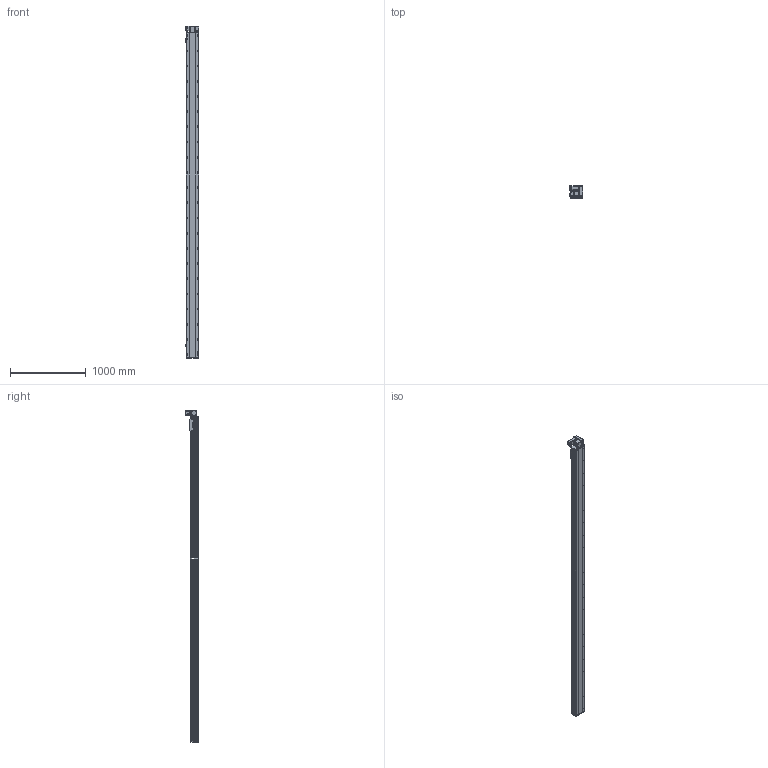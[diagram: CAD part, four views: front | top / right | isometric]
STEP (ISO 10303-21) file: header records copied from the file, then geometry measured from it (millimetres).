
FILE_DESCRIPTION (( 'STEP AP214' ), '1' );
FILE_NAME ('RTB17S-XX-4000-RW-M40-C4.STEP', '2025-12-11T09:25:11', ( '' ), ( '' ), 'SwSTEP 2.0', 'SolidWorks 2018', '' );
FILE_SCHEMA (( 'AUTOMOTIVE_DESIGN' ));
Length unit declared in the file: millimetre
Products named in the file (14): RMP17S-L-014-T20--々湍釱^RTB17S-RW-々湍釱蚾饜-400W_RTB17S-XX-XX-RW-M40-C4; RTB14-L-017P^RTB17S-RW-々湍釱蚾饜-400W_RTB17S-XX-XX-RW-M40-C4; RTB14-L-018P^RTB17S-RW-々湍釱蚾饜-400W_RTB17S-XX-XX-RW-M40-C4; RTB17S-L-007奻裔^RTB17S-XX-XX-RW-M40-C4; RTB17S-L-001耜醱啣^RTB17S-XX-XX-RW-M40-C4; RTB17S-XX-4000-RW-M40-C4; RTB14-L-008-M20--萇儂啣^RTB17S-RW-々湍釱蚾饜-400W_RTB17S-XX-XX-RW-M40-C4; RTB17-R-011菁釱^RTB17S-XX-XX-RW-M40-C4; RTB14-L-005P--轴承塑胶压盖^RTB17S-RW-皮带座装配-400W_RTB17S-XX-XX-RW-M40-C4; RTH13-BL-012覜茼え俋离^RTB17S-XX-XX-RW-M40-C4; RTB17S-RW-々湍釱蚾饜-400W^RTB17S-XX-XX-RW-M40-C4; OMRON EE-SX672 传感器^RTB17S-XX-XX-RW-M40-C4; RTB17S-L-004佪裝蹟譫蟀諉釱^RTB17S-XX-XX-RW-M40-C4; 400W侜督萇儂^RTB17S-XX-XX-RW-M40-C4
Assembly tree (16 placements, depth 3):
  RTB17S-XX-4000-RW-M40-C4
    RTB17-R-011菁釱^RTB17S-XX-XX-RW-M40-C4
    RTB17S-L-007奻裔^RTB17S-XX-XX-RW-M40-C4
    OMRON EE-SX672 传感器^RTB17S-XX-XX-RW-M40-C4  x3
    RTB17S-L-001耜醱啣^RTB17S-XX-XX-RW-M40-C4
    400W侜督萇儂^RTB17S-XX-XX-RW-M40-C4
    RTB17S-L-004佪裝蹟譫蟀諉釱^RTB17S-XX-XX-RW-M40-C4
    RTH13-BL-012覜茼え俋离^RTB17S-XX-XX-RW-M40-C4
    RTB17S-RW-々湍釱蚾饜-400W^RTB17S-XX-XX-RW-M40-C4
      RMP17S-L-014-T20--々湍釱^RTB17S-RW-々湍釱蚾饜-400W_RTB17S-XX-XX-RW-M40-C4
      RTB14-L-005P--轴承塑胶压盖^RTB17S-RW-皮带座装配-400W_RTB17S-XX-XX-RW-M40-C4
      RTB14-L-008-M20--萇儂啣^RTB17S-RW-々湍釱蚾饜-400W_RTB17S-XX-XX-RW-M40-C4
      RTB14-L-017P^RTB17S-RW-々湍釱蚾饜-400W_RTB17S-XX-XX-RW-M40-C4  x2
      RTB14-L-018P^RTB17S-RW-々湍釱蚾饜-400W_RTB17S-XX-XX-RW-M40-C4
Bounding box: 183.5 x 160.5 x 4372.5 mm (x, y, z)
Volume: 36841700.2 mm3; surface area: 4165039.7 mm2
Topology: 15 solids, 15 shells, 2445 faces, 6897 edges, 4509 vertices
Faces by surface type: plane 1098, cylinder 899, bspline 301, cone 139, torus 8
Entity records: 74153 total; most frequent: CARTESIAN_POINT 21302, ORIENTED_EDGE 10638, DIRECTION 9746, EDGE_CURVE 5319, VERTEX_POINT 3497, AXIS2_PLACEMENT_3D 3427, LINE 2892, VECTOR 2892
